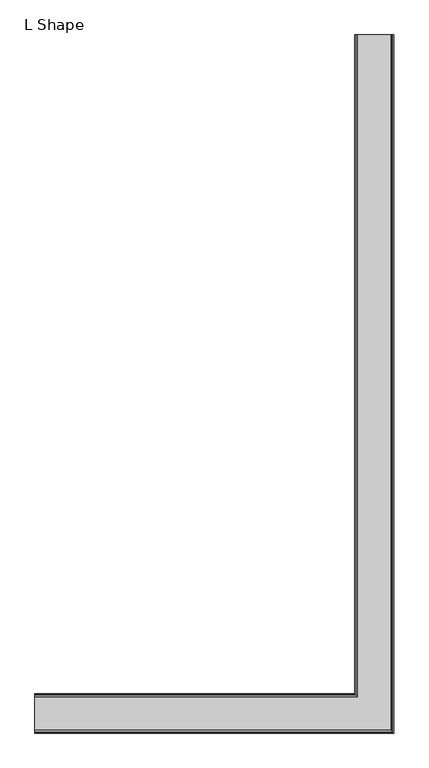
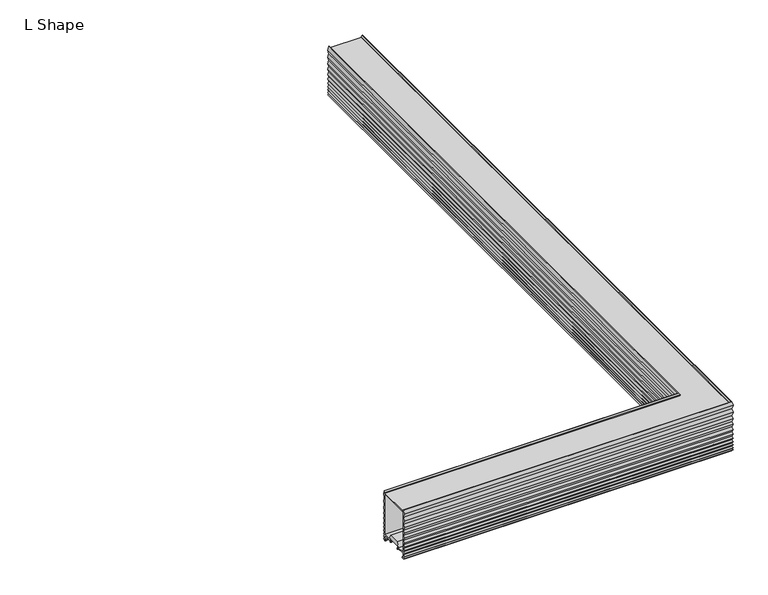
"""IFC4 building model written with IfcOpenShell, lengths in millimetres: light fixture geometry, Lighting-Pendant-Betacalco-Bellows-L_Shape : L Shape."""

from ifc_helpers import new_model, si_unit, frame, origin, place, context, project, spatial, polyline, circle_curve, ellipse_curve, outline, extrude, source, transform, mapped, element, save
from ifc_brep_helpers import plane_surface, cylinder_surface, advanced_brep


def l_shape_d3140779(model_context):
    return source(origin(), model_context, "Body", "SolidModel", [
        advanced_brep(
        [(273.578, 1219.2, 620.268), (273.578, 1219.2, 611.759), (276.1074155, 1219.2, 611.759), (274.1622, 1219.2, 609.6), (271.5112057, 1219.2, 609.6), (269.6378379, 1219.2, 611.6283861), (271.419, 1219.2, 613.664), (269.641, 1219.2, 616.204), (271.419, 1219.2, 618.744), (269.641, 1219.2, 621.792), (271.419, 1219.2, 624.84), (269.641, 1219.2, 628.396), (271.419, 1219.2, 631.952), (269.641, 1219.2, 635.762), (271.419, 1219.2, 639.572), (269.6696413, 1219.2, 644.0703509), (271.3917998, 1219.2, 648.6460566), (269.6644945, 1219.2, 653.7288728), (271.3965785, 1219.2, 658.8119386), (269.6606035, 1219.2, 664.402389), (271.4002163, 1219.2, 669.9929656), (269.6575947, 1219.2, 676.091104), (271.4035969, 1219.2, 682.1911894), (269.6533208, 1219.2, 689.3067168), (271.4068918, 1219.2, 696.4195673), (269.6525087, 1219.2, 703.786321), (271.4185068, 1219.2, 711.2), (272.2122568, 1219.2, 711.2), (274.37175, 1219.2, 708.8470342), (274.37175, 1219.2, 707.3961196), (273.578, 1219.2, 707.3961196), (273.578, 1219.2, 622.427), (289.3193854, 1219.2, 622.427), (294.1777745, 1219.2, 632.1473325), (315.4222255, 1219.2, 632.1473325), (320.2806146, 1219.2, 622.427), (336.022, 1219.2, 622.427), (336.022, 1219.2, 707.3961196), (335.22825, 1219.2, 707.3961196), (335.22825, 1219.2, 708.8470342), (337.3877432, 1219.2, 711.2), (338.1814932, 1219.2, 711.2), (339.9474913, 1219.2, 703.786321), (338.1931082, 1219.2, 696.4195673), (339.9466792, 1219.2, 689.3067168), (338.1964031, 1219.2, 682.1911894), (339.9424053, 1219.2, 676.091104), (338.1997837, 1219.2, 669.9929656), (339.9393965, 1219.2, 664.402389), (338.2034215, 1219.2, 658.8119386), (339.9355055, 1219.2, 653.7288728), (338.2082002, 1219.2, 648.6460566), (339.9303587, 1219.2, 644.0703509), (338.181, 1219.2, 639.572), (339.959, 1219.2, 635.762), (338.181, 1219.2, 631.952), (339.959, 1219.2, 628.396), (338.181, 1219.2, 624.84), (339.959, 1219.2, 621.792), (338.181, 1219.2, 618.744), (339.959, 1219.2, 616.204), (338.181, 1219.2, 613.664), (339.9621621, 1219.2, 611.6283861), (338.0887943, 1219.2, 609.6), (335.4378, 1219.2, 609.6), (333.4925845, 1219.2, 611.759), (336.022, 1219.2, 611.759), (336.022, 1219.2, 620.268), (318.3129289, 1219.2, 620.268), (317.5429679, 1219.2, 618.214822), (315.8552644, 1219.2, 618.8406239), (317.48601, 1219.2, 623.1891701), (316.8641563, 1219.2, 624.4333325), (292.7358437, 1219.2, 624.4333325), (292.11399, 1219.2, 623.1891701), (293.7447356, 1219.2, 618.8406239), (292.0570321, 1219.2, 618.214822), (291.2870711, 1219.2, 620.268), (-304.8, 31.222, 620.268), (-304.8, 13.5129289, 620.268), (-304.8, 12.7429679, 618.214822), (-304.8, 11.0552644, 618.8406239), (-304.8, 12.68601, 623.1891701), (-304.8, 12.0641563, 624.4333325), (-304.8, -12.0641563, 624.4333325), (-304.8, -12.68601, 623.1891701), (-304.8, -11.0552644, 618.8406239), (-304.8, -12.7429679, 618.214822), (-304.8, -13.5129289, 620.268), (-304.8, -31.222, 620.268), (-304.8, -31.222, 611.759), (-304.8, -28.6925845, 611.759), (-304.8, -30.6378, 609.6), (-304.8, -33.2887943, 609.6), (-304.8, -35.1621621, 611.6283861), (-304.8, -33.381, 613.664), (-304.8, -35.159, 616.204), (-304.8, -33.381, 618.744), (-304.8, -35.159, 621.792), (-304.8, -33.381, 624.84), (-304.8, -35.159, 628.396), (-304.8, -33.381, 631.952), (-304.8, -35.159, 635.762), (-304.8, -33.381, 639.572), (-304.8, -35.1303587, 644.0703509), (-304.8, -33.4082002, 648.6460566), (-304.8, -35.1355055, 653.7288728), (-304.8, -33.4034215, 658.8119386), (-304.8, -35.1393965, 664.402389), (-304.8, -33.3997837, 669.9929656), (-304.8, -35.1424053, 676.091104), (-304.8, -33.3964031, 682.1911894), (-304.8, -35.1466792, 689.3067168), (-304.8, -33.3931082, 696.4195673), (-304.8, -35.1474913, 703.786321), (-304.8, -33.3814932, 711.2), (-304.8, -32.5877432, 711.2), (-304.8, -30.42825, 708.8470342), (-304.8, -30.42825, 707.3961196), (-304.8, -31.222, 707.3961196), (-304.8, -31.222, 622.427), (-304.8, -15.4806146, 622.427), (-304.8, -10.6222255, 632.1473325), (-304.8, 10.6222255, 632.1473325), (-304.8, 15.4806146, 622.427), (-304.8, 31.222, 622.427), (-304.8, 31.222, 707.3961196), (-304.8, 30.42825, 707.3961196), (-304.8, 30.42825, 708.8470342), (-304.8, 32.5877432, 711.2), (-304.8, 33.3814932, 711.2), (-304.8, 35.1474913, 703.786321), (-304.8, 33.3931082, 696.4195673), (-304.8, 35.1466792, 689.3067168), (-304.8, 33.3964031, 682.1911894), (-304.8, 35.1424053, 676.091104), (-304.8, 33.3997837, 669.9929656), (-304.8, 35.1393965, 664.402389), (-304.8, 33.4034215, 658.8119386), (-304.8, 35.1355055, 653.7288728), (-304.8, 33.4082002, 648.6460566), (-304.8, 35.1303587, 644.0703509), (-304.8, 33.381, 639.572), (-304.8, 35.159, 635.762), (-304.8, 33.381, 631.952), (-304.8, 35.159, 628.396), (-304.8, 33.381, 624.84), (-304.8, 35.159, 621.792), (-304.8, 33.381, 618.744), (-304.8, 35.159, 616.204), (-304.8, 33.381, 613.664), (-304.8, 35.1621621, 611.6283861), (-304.8, 33.2887943, 609.6), (-304.8, 30.6378, 609.6), (-304.8, 28.6925845, 611.759), (-304.8, 31.222, 611.759), (292.0570321, 12.7429679, 618.214822), (291.2870711, 13.5129289, 620.268), (293.7447356, 11.0552644, 618.8406239), (292.11399, 12.68601, 623.1891701), (292.7358437, 12.0641563, 624.4333325), (317.48601, -12.68601, 623.1891701), (316.8641563, -12.0641563, 624.4333325), (315.8552644, -11.0552644, 618.8406239), (317.5429679, -12.7429679, 618.214822), (318.3129289, -13.5129289, 620.268), (336.022, -31.222, 611.759), (336.022, -31.222, 620.268), (335.4378, -30.6378, 609.6), (333.4925845, -28.6925845, 611.759), (339.9621621, -35.1621621, 611.6283861), (338.0887943, -33.2887943, 609.6), (338.181, -33.381, 613.664), (339.959, -35.159, 616.204), (338.181, -33.381, 618.744), (339.959, -35.159, 621.792), (338.181, -33.381, 624.84), (339.959, -35.159, 628.396), (338.181, -33.381, 631.952), (339.959, -35.159, 635.762), (338.181, -33.381, 639.572), (339.9303587, -35.1303587, 644.0703509), (338.2082002, -33.4082002, 648.6460566), (339.9355055, -35.1355055, 653.7288728), (338.2034215, -33.4034215, 658.8119386), (339.9393965, -35.1393965, 664.402389), (338.1997837, -33.3997837, 669.9929656), (339.9424053, -35.1424053, 676.091104), (338.1964031, -33.3964031, 682.1911894), (339.9466792, -35.1466792, 689.3067168), (338.1931082, -33.3931082, 696.4195673), (339.9474913, -35.1474913, 703.786321), (338.1814932, -33.3814932, 711.2), (335.22825, -30.42825, 708.8470342), (337.3877432, -32.5877432, 711.2), (335.22825, -30.42825, 707.3961196), (336.022, -31.222, 622.427), (336.022, -31.222, 707.3961196), (315.4222255, -10.6222255, 632.1473325), (320.2806146, -15.4806146, 622.427), (289.3193854, 15.4806146, 622.427), (294.1777745, 10.6222255, 632.1473325), (273.578, 31.222, 707.3961196), (273.578, 31.222, 622.427), (274.37175, 30.42825, 708.8470342), (274.37175, 30.42825, 707.3961196), (272.2122568, 32.5877432, 711.2), (269.6525087, 35.1474913, 703.786321), (271.4185068, 33.3814932, 711.2), (271.4068918, 33.3931082, 696.4195673), (269.6533208, 35.1466792, 689.3067168), (271.4035969, 33.3964031, 682.1911894), (269.6575947, 35.1424053, 676.091104), (271.4002163, 33.3997837, 669.9929656), (269.6606035, 35.1393965, 664.402389), (271.3965785, 33.4034215, 658.8119386), (269.6644945, 35.1355055, 653.7288728), (271.3917998, 33.4082002, 648.6460566), (269.6696413, 35.1303587, 644.0703509), (271.419, 33.381, 639.572), (269.641, 35.159, 635.762), (271.419, 33.381, 631.952), (269.641, 35.159, 628.396), (271.419, 33.381, 624.84), (269.641, 35.159, 621.792), (271.419, 33.381, 618.744), (269.641, 35.159, 616.204), (271.419, 33.381, 613.664), (269.6378379, 35.1621621, 611.6283861), (271.5112057, 33.2887943, 609.6), (276.1074155, 28.6925845, 611.759), (274.1622, 30.6378, 609.6), (273.578, 31.222, 620.268), (273.578, 31.222, 611.759)],
        [
            (0, 1),
            (1, 2),
            (2, 3, circle_curve(frame((274.1622, 1219.2, 611.5558), z_axis=(0.0, 1.0, 0.0), x_axis=(0.0, 0.0, -1.0)), 1.9558)),
            (3, 4),
            (4, 5),
            (5, 6),
            (6, 7),
            (7, 8),
            (8, 9),
            (9, 10),
            (10, 11),
            (11, 12),
            (12, 13),
            (13, 14),
            (14, 15),
            (15, 16),
            (16, 17),
            (17, 18),
            (18, 19),
            (19, 20),
            (20, 21),
            (21, 22),
            (22, 23),
            (23, 24),
            (24, 25),
            (25, 26),
            (26, 27),
            (27, 28),
            (28, 29),
            (29, 30),
            (30, 31),
            (31, 32),
            (32, 33),
            (33, 34),
            (34, 35),
            (35, 36),
            (36, 37),
            (37, 38),
            (38, 39),
            (39, 40),
            (40, 41),
            (41, 42),
            (42, 43),
            (43, 44),
            (44, 45),
            (45, 46),
            (46, 47),
            (47, 48),
            (48, 49),
            (49, 50),
            (50, 51),
            (51, 52),
            (52, 53),
            (53, 54),
            (54, 55),
            (55, 56),
            (56, 57),
            (57, 58),
            (58, 59),
            (59, 60),
            (60, 61),
            (61, 62),
            (62, 63),
            (63, 64),
            (64, 65, circle_curve(frame((335.4378, 1219.2, 611.5558), z_axis=(0.0, 1.0, 0.0), x_axis=(0.0, 0.0, -1.0)), 1.9558)),
            (65, 66),
            (66, 67),
            (67, 68),
            (68, 69),
            (69, 70, circle_curve(frame((316.7002723, 1219.2, 618.5308408), z_axis=(0.0, 1.0, 0.0), x_axis=(-0.34325550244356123, 0.0, -0.9392420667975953)), 0.9000021)),
            (70, 71),
            (71, 72),
            (72, 73),
            (73, 74),
            (74, 75),
            (75, 76, circle_curve(frame((292.8997277, 1219.2, 618.5308408), z_axis=(0.0, 1.0, 0.0), x_axis=(0.34325550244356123, 0.0, -0.9392420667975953)), 0.9000021)),
            (76, 77),
            (77, 0),
            (78, 79),
            (79, 80),
            (80, 81, circle_curve(frame((-304.8, 11.9002723, 618.5308408), z_axis=(-1.0, 0.0, 0.0), x_axis=(0.0, -0.34325550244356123, -0.9392420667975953)), 0.9000021)),
            (81, 82),
            (82, 83),
            (83, 84),
            (84, 85),
            (85, 86),
            (86, 87, circle_curve(frame((-304.8, -11.9002723, 618.5308408), z_axis=(-1.0, 0.0, 0.0), x_axis=(0.0, 0.34325550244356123, -0.9392420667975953)), 0.9000021)),
            (87, 88),
            (88, 89),
            (89, 90),
            (90, 91),
            (91, 92, circle_curve(frame((-304.8, -30.6378, 611.5558), z_axis=(-1.0, 0.0, 0.0), x_axis=(0.0, 0.0, -1.0)), 1.9558)),
            (92, 93),
            (93, 94),
            (94, 95),
            (95, 96),
            (96, 97),
            (97, 98),
            (98, 99),
            (99, 100),
            (100, 101),
            (101, 102),
            (102, 103),
            (103, 104),
            (104, 105),
            (105, 106),
            (106, 107),
            (107, 108),
            (108, 109),
            (109, 110),
            (110, 111),
            (111, 112),
            (112, 113),
            (113, 114),
            (114, 115),
            (115, 116),
            (116, 117),
            (117, 118),
            (118, 119),
            (119, 120),
            (120, 121),
            (121, 122),
            (122, 123),
            (123, 124),
            (124, 125),
            (125, 126),
            (126, 127),
            (127, 128),
            (128, 129),
            (129, 130),
            (130, 131),
            (131, 132),
            (132, 133),
            (133, 134),
            (134, 135),
            (135, 136),
            (136, 137),
            (137, 138),
            (138, 139),
            (139, 140),
            (140, 141),
            (141, 142),
            (142, 143),
            (143, 144),
            (144, 145),
            (145, 146),
            (146, 147),
            (147, 148),
            (148, 149),
            (149, 150),
            (150, 151),
            (151, 152),
            (152, 153),
            (153, 154, circle_curve(frame((-304.8, 30.6378, 611.5558), z_axis=(-1.0, 0.0, 0.0), x_axis=(0.0, 0.0, -1.0)), 1.9558)),
            (154, 155),
            (155, 78),
            (156, 80),
            (79, 157),
            (157, 156),
            (158, 81),
            (156, 158, ellipse_curve(frame((292.8997277, 11.9002723, 618.5308408), z_axis=(-0.7071067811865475, -0.7071067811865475, 0.0), x_axis=(0.7071067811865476, -0.7071067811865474, 0.0)), 1.2727952, 0.9000021)),
            (159, 82),
            (158, 159),
            (160, 83),
            (159, 160),
            (161, 85),
            (84, 162),
            (162, 161),
            (163, 86),
            (161, 163),
            (164, 87),
            (163, 164, ellipse_curve(frame((316.7002723, -11.9002723, 618.5308408), z_axis=(-0.7071067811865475, -0.7071067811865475, 0.0), x_axis=(0.7071067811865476, -0.7071067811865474, 0.0)), 1.2727952, 0.9000021)),
            (165, 88),
            (164, 165),
            (166, 90),
            (89, 167),
            (167, 166),
            (168, 92),
            (91, 169),
            (169, 168, ellipse_curve(frame((335.4378, -30.6378, 611.5558), z_axis=(-0.7071067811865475, -0.7071067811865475, 0.0), x_axis=(0.7071067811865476, -0.7071067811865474, 0.0)), 2.7659189, 1.9558)),
            (170, 94),
            (93, 171),
            (171, 170),
            (172, 95),
            (170, 172),
            (173, 96),
            (172, 173),
            (174, 97),
            (173, 174),
            (175, 98),
            (174, 175),
            (176, 99),
            (175, 176),
            (177, 100),
            (176, 177),
            (178, 101),
            (177, 178),
            (179, 102),
            (178, 179),
            (180, 103),
            (179, 180),
            (181, 104),
            (180, 181),
            (182, 105),
            (181, 182),
            (183, 106),
            (182, 183),
            (184, 107),
            (183, 184),
            (185, 108),
            (184, 185),
            (186, 109),
            (185, 186),
            (187, 110),
            (186, 187),
            (188, 111),
            (187, 188),
            (189, 112),
            (188, 189),
            (190, 113),
            (189, 190),
            (191, 114),
            (190, 191),
            (192, 115),
            (191, 192),
            (193, 117),
            (116, 194),
            (194, 193),
            (195, 118),
            (193, 195),
            (196, 120),
            (119, 197),
            (197, 196),
            (198, 122),
            (121, 199),
            (199, 198),
            (200, 124),
            (123, 201),
            (201, 200),
            (202, 126),
            (125, 203),
            (203, 202),
            (204, 128),
            (127, 205),
            (205, 204),
            (206, 129),
            (204, 206),
            (207, 131),
            (130, 208),
            (208, 207),
            (209, 132),
            (207, 209),
            (210, 133),
            (209, 210),
            (211, 134),
            (210, 211),
            (212, 135),
            (211, 212),
            (213, 136),
            (212, 213),
            (214, 137),
            (213, 214),
            (215, 138),
            (214, 215),
            (216, 139),
            (215, 216),
            (217, 140),
            (216, 217),
            (218, 141),
            (217, 218),
            (219, 142),
            (218, 219),
            (220, 143),
            (219, 220),
            (221, 144),
            (220, 221),
            (222, 145),
            (221, 222),
            (223, 146),
            (222, 223),
            (224, 147),
            (223, 224),
            (225, 148),
            (224, 225),
            (226, 149),
            (225, 226),
            (227, 150),
            (226, 227),
            (228, 151),
            (227, 228),
            (229, 152),
            (228, 229),
            (230, 154),
            (153, 231),
            (231, 230, ellipse_curve(frame((274.1622, 30.6378, 611.5558), z_axis=(-0.7071067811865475, -0.7071067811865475, 0.0), x_axis=(0.7071067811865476, -0.7071067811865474, 0.0)), 2.7659189, 1.9558)),
            (232, 78),
            (155, 233),
            (233, 232),
            (77, 157),
            (232, 0),
            (76, 156),
            (75, 158),
            (74, 159),
            (73, 160),
            (72, 162),
            (71, 161),
            (70, 163),
            (69, 164),
            (68, 165),
            (67, 167),
            (66, 166),
            (65, 169),
            (64, 168),
            (63, 171),
            (62, 170),
            (61, 172),
            (60, 173),
            (59, 174),
            (58, 175),
            (57, 176),
            (56, 177),
            (55, 178),
            (54, 179),
            (53, 180),
            (52, 181),
            (51, 182),
            (50, 183),
            (49, 184),
            (48, 185),
            (47, 186),
            (46, 187),
            (45, 188),
            (44, 189),
            (43, 190),
            (42, 191),
            (41, 192),
            (40, 194),
            (39, 193),
            (38, 195),
            (37, 197),
            (36, 196),
            (35, 199),
            (34, 198),
            (33, 201),
            (32, 200),
            (31, 203),
            (30, 202),
            (29, 205),
            (28, 204),
            (27, 206),
            (26, 208),
            (25, 207),
            (24, 209),
            (23, 210),
            (22, 211),
            (21, 212),
            (20, 213),
            (19, 214),
            (18, 215),
            (17, 216),
            (16, 217),
            (15, 218),
            (14, 219),
            (13, 220),
            (12, 221),
            (11, 222),
            (10, 223),
            (9, 224),
            (8, 225),
            (7, 226),
            (6, 227),
            (5, 228),
            (4, 229),
            (3, 231),
            (2, 230),
            (1, 233),
        ],
        [
            plane_surface(frame((304.8, 1219.2, 0.0), z_axis=(0.0, 1.0, 0.0), x_axis=(0.0, 0.0, 1.0))),
            plane_surface(frame((-304.8, 0.0, 0.0), z_axis=(-1.0, 0.0, 0.0), x_axis=(0.0, 0.0, 1.0))),
            plane_surface(frame((291.2870711, 13.5129289, 620.268), z_axis=(0.0, 0.9363262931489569, -0.3511311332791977), x_axis=(-1.0, 0.0, 0.0))),
            cylinder_surface(frame((304.8, 11.9002723, 618.5308408), z_axis=(1.0, 0.0, 0.0), x_axis=(0.0, -0.34325550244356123, -0.9392420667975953)), 0.9000021),
            plane_surface(frame((293.7447356, 11.0552644, 618.8406239), z_axis=(0.0, -0.9363262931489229, 0.35113113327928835), x_axis=(-1.0, 0.0, 0.0))),
            plane_surface(frame((292.11399, 12.68601, 623.1891701), z_axis=(0.0, -0.89449260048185, -0.44708275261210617), x_axis=(-1.0, 0.0, 0.0))),
            plane_surface(frame((316.8641563, -12.0641563, 624.4333325), z_axis=(0.0, 0.89449260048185, -0.44708275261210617), x_axis=(-1.0, 0.0, 0.0))),
            plane_surface(frame((317.48601, -12.68601, 623.1891701), z_axis=(0.0, 0.9363262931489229, 0.35113113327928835), x_axis=(-1.0, 0.0, 0.0))),
            cylinder_surface(frame((304.8, -11.9002723, 618.5308408), z_axis=(1.0, 0.0, 0.0), x_axis=(0.0, 0.34325550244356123, -0.9392420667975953)), 0.9000021),
            plane_surface(frame((317.5429679, -12.7429679, 618.214822), z_axis=(0.0, -0.9363262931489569, -0.3511311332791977), x_axis=(-1.0, 0.0, 0.0))),
            plane_surface(frame((336.022, -31.222, 620.268), z_axis=(0.0, 1.0, 0.0), x_axis=(-1.0, 0.0, 0.0))),
            cylinder_surface(frame((304.8, -30.6378, 611.5558), z_axis=(1.0, 0.0, 0.0), x_axis=(0.0, 0.0, -1.0)), 1.9558),
            plane_surface(frame((338.0887943, -33.2887943, 609.6), z_axis=(0.0, -0.7346208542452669, -0.6784778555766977), x_axis=(-1.0, 0.0, 0.0))),
            plane_surface(frame((339.9621621, -35.1621621, 611.6283861), z_axis=(0.0, -0.75257669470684, 0.6585046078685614), x_axis=(-1.0, 0.0, 0.0))),
            plane_surface(frame((338.181, -33.381, 613.664), z_axis=(0.0, -0.8192319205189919, -0.5734623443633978), x_axis=(-1.0, 0.0, 0.0))),
            plane_surface(frame((339.959, -35.159, 616.204), z_axis=(0.0, -0.8192319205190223, 0.5734623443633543), x_axis=(-1.0, 0.0, 0.0))),
            plane_surface(frame((338.181, -33.381, 618.744), z_axis=(0.0, -0.8637789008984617, -0.503871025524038), x_axis=(-1.0, 0.0, 0.0))),
            plane_surface(frame((339.959, -35.159, 621.792), z_axis=(0.0, -0.8637789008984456, 0.5038710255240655), x_axis=(-1.0, 0.0, 0.0))),
            plane_surface(frame((338.181, -33.381, 624.84), z_axis=(0.0, -0.8944271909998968, -0.4472135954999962), x_axis=(-1.0, 0.0, 0.0))),
            plane_surface(frame((339.959, -35.159, 628.396), z_axis=(0.0, -0.8944271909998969, 0.44721359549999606), x_axis=(-1.0, 0.0, 0.0))),
            plane_surface(frame((338.181, -33.381, 631.952), z_axis=(0.0, -0.9061831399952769, -0.4228854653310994), x_axis=(-1.0, 0.0, 0.0))),
            plane_surface(frame((339.959, -35.159, 635.762), z_axis=(0.0, -0.9061831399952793, 0.4228854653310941), x_axis=(-1.0, 0.0, 0.0))),
            plane_surface(frame((338.181, -33.381, 639.572), z_axis=(0.0, -0.9320046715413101, -0.362446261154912), x_axis=(-1.0, 0.0, 0.0))),
            plane_surface(frame((339.9303587, -35.1303587, 644.0703509), z_axis=(0.0, -0.9359069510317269, 0.35224732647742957), x_axis=(-1.0, 0.0, 0.0))),
            plane_surface(frame((338.2082002, -33.4082002, 648.6460566), z_axis=(0.0, -0.9468211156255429, -0.3217604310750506), x_axis=(-1.0, 0.0, 0.0))),
            plane_surface(frame((339.9355055, -35.1355055, 653.7288728), z_axis=(0.0, -0.9465545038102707, 0.3225439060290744), x_axis=(-1.0, 0.0, 0.0))),
            plane_surface(frame((338.2034215, -33.4034215, 658.8119386), z_axis=(0.0, -0.9550153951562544, -0.2965562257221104), x_axis=(-1.0, 0.0, 0.0))),
            plane_surface(frame((339.9393965, -35.1393965, 664.402389), z_axis=(0.0, -0.9548411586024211, 0.29711674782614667), x_axis=(-1.0, 0.0, 0.0))),
            plane_surface(frame((338.1997837, -33.3997837, 669.9929656), z_axis=(0.0, -0.9615116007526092, -0.2747643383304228), x_axis=(-1.0, 0.0, 0.0))),
            plane_surface(frame((339.9424053, -35.1424053, 676.091104), z_axis=(0.0, -0.9613939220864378, 0.27517581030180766), x_axis=(-1.0, 0.0, 0.0))),
            plane_surface(frame((338.1964031, -33.3964031, 682.1911894), z_axis=(0.0, -0.971054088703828, -0.23885970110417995), x_axis=(-1.0, 0.0, 0.0))),
            plane_surface(frame((339.9466792, -35.1466792, 689.3067168), z_axis=(0.0, -0.9709287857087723, 0.23936852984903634), x_axis=(-1.0, 0.0, 0.0))),
            plane_surface(frame((338.1931082, -33.3931082, 696.4195673), z_axis=(0.0, -0.9727944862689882, -0.23166978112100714), x_axis=(-1.0, 0.0, 0.0))),
            plane_surface(frame((339.9474913, -35.1474913, 703.786321), z_axis=(0.0, -0.9727814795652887, 0.23172439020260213), x_axis=(-1.0, 0.0, 0.0))),
            plane_surface(frame((337.3877432, -32.5877432, 711.2), z_axis=(0.0, 0.7367472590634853, 0.6761682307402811), x_axis=(-1.0, 0.0, 0.0))),
            plane_surface(frame((335.22825, -30.42825, 708.8470342), z_axis=(0.0, 1.0, 0.0), x_axis=(-1.0, 0.0, 0.0))),
            plane_surface(frame((336.022, -31.222, 707.3961196), z_axis=(0.0, 1.0, 0.0), x_axis=(-1.0, 0.0, 0.0))),
            plane_surface(frame((320.2806146, -15.4806146, 622.427), z_axis=(0.0, -0.8944926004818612, 0.4470827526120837), x_axis=(-1.0, 0.0, 0.0))),
            plane_surface(frame((294.1777745, 10.6222255, 632.1473325), z_axis=(0.0, 0.8944926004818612, 0.4470827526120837), x_axis=(-1.0, 0.0, 0.0))),
            plane_surface(frame((273.578, 31.222, 622.427), z_axis=(0.0, -1.0, 0.0), x_axis=(-1.0, 0.0, 0.0))),
            plane_surface(frame((274.37175, 30.42825, 707.3961196), z_axis=(0.0, -1.0, 0.0), x_axis=(-1.0, 0.0, 0.0))),
            plane_surface(frame((274.37175, 30.42825, 708.8470342), z_axis=(0.0, -0.7367472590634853, 0.6761682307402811), x_axis=(-1.0, 0.0, 0.0))),
            plane_surface(frame((271.4185068, 33.3814932, 711.2), z_axis=(0.0, 0.9727814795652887, 0.23172439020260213), x_axis=(-1.0, 0.0, 0.0))),
            plane_surface(frame((269.6525087, 35.1474913, 703.786321), z_axis=(0.0, 0.9727944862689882, -0.23166978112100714), x_axis=(-1.0, 0.0, 0.0))),
            plane_surface(frame((271.4068918, 33.3931082, 696.4195673), z_axis=(0.0, 0.9709287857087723, 0.23936852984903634), x_axis=(-1.0, 0.0, 0.0))),
            plane_surface(frame((269.6533208, 35.1466792, 689.3067168), z_axis=(0.0, 0.971054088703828, -0.23885970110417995), x_axis=(-1.0, 0.0, 0.0))),
            plane_surface(frame((271.4035969, 33.3964031, 682.1911894), z_axis=(0.0, 0.9613939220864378, 0.27517581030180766), x_axis=(-1.0, 0.0, 0.0))),
            plane_surface(frame((269.6575947, 35.1424053, 676.091104), z_axis=(0.0, 0.9615116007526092, -0.2747643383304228), x_axis=(-1.0, 0.0, 0.0))),
            plane_surface(frame((271.4002163, 33.3997837, 669.9929656), z_axis=(0.0, 0.9548411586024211, 0.29711674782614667), x_axis=(-1.0, 0.0, 0.0))),
            plane_surface(frame((269.6606035, 35.1393965, 664.402389), z_axis=(0.0, 0.9550153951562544, -0.2965562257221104), x_axis=(-1.0, 0.0, 0.0))),
            plane_surface(frame((271.3965785, 33.4034215, 658.8119386), z_axis=(0.0, 0.9465545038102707, 0.3225439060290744), x_axis=(-1.0, 0.0, 0.0))),
            plane_surface(frame((269.6644945, 35.1355055, 653.7288728), z_axis=(0.0, 0.9468211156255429, -0.3217604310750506), x_axis=(-1.0, 0.0, 0.0))),
            plane_surface(frame((271.3917998, 33.4082002, 648.6460566), z_axis=(0.0, 0.9359069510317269, 0.35224732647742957), x_axis=(-1.0, 0.0, 0.0))),
            plane_surface(frame((269.6696413, 35.1303587, 644.0703509), z_axis=(0.0, 0.9320046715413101, -0.362446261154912), x_axis=(-1.0, 0.0, 0.0))),
            plane_surface(frame((271.419, 33.381, 639.572), z_axis=(0.0, 0.9061831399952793, 0.4228854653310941), x_axis=(-1.0, 0.0, 0.0))),
            plane_surface(frame((269.641, 35.159, 635.762), z_axis=(0.0, 0.9061831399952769, -0.4228854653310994), x_axis=(-1.0, 0.0, 0.0))),
            plane_surface(frame((271.419, 33.381, 631.952), z_axis=(0.0, 0.8944271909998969, 0.44721359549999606), x_axis=(-1.0, 0.0, 0.0))),
            plane_surface(frame((269.641, 35.159, 628.396), z_axis=(0.0, 0.8944271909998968, -0.4472135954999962), x_axis=(-1.0, 0.0, 0.0))),
            plane_surface(frame((271.419, 33.381, 624.84), z_axis=(0.0, 0.8637789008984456, 0.5038710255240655), x_axis=(-1.0, 0.0, 0.0))),
            plane_surface(frame((269.641, 35.159, 621.792), z_axis=(0.0, 0.8637789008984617, -0.503871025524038), x_axis=(-1.0, 0.0, 0.0))),
            plane_surface(frame((271.419, 33.381, 618.744), z_axis=(0.0, 0.8192319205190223, 0.5734623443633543), x_axis=(-1.0, 0.0, 0.0))),
            plane_surface(frame((269.641, 35.159, 616.204), z_axis=(0.0, 0.8192319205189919, -0.5734623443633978), x_axis=(-1.0, 0.0, 0.0))),
            plane_surface(frame((271.419, 33.381, 613.664), z_axis=(0.0, 0.75257669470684, 0.6585046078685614), x_axis=(-1.0, 0.0, 0.0))),
            plane_surface(frame((269.6378379, 35.1621621, 611.6283861), z_axis=(0.0, 0.7346208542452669, -0.6784778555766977), x_axis=(-1.0, 0.0, 0.0))),
            cylinder_surface(frame((304.8, 30.6378, 611.5558), z_axis=(1.0, 0.0, 0.0), x_axis=(0.0, 0.0, -1.0)), 1.9558),
            plane_surface(frame((273.578, 31.222, 611.759), z_axis=(0.0, -1.0, 0.0), x_axis=(-1.0, 0.0, 0.0))),
            plane_surface(frame((273.578, 1219.2, 620.268), z_axis=(0.0, 0.0, -1.0), x_axis=(0.0, -1.0, 0.0))),
            plane_surface(frame((291.2870711, 1219.2, 620.268), z_axis=(-0.9363262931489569, 0.0, -0.3511311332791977), x_axis=(0.0, -1.0, 0.0))),
            cylinder_surface(frame((292.8997277, 1219.2, 618.5308408), z_axis=(0.0, 1.0, 0.0), x_axis=(0.34325550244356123, 0.0, -0.9392420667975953)), 0.9000021),
            plane_surface(frame((293.7447356, 1219.2, 618.8406239), z_axis=(0.9363262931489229, 0.0, 0.35113113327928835), x_axis=(0.0, -1.0, 0.0))),
            plane_surface(frame((292.11399, 1219.2, 623.1891701), z_axis=(0.89449260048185, 0.0, -0.44708275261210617), x_axis=(0.0, -1.0, 0.0))),
            plane_surface(frame((292.7358437, 1219.2, 624.4333325), z_axis=(0.0, 0.0, -1.0), x_axis=(0.0, -1.0, 0.0))),
            plane_surface(frame((316.8641563, 1219.2, 624.4333325), z_axis=(-0.89449260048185, 0.0, -0.44708275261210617), x_axis=(0.0, -1.0, 0.0))),
            plane_surface(frame((317.48601, 1219.2, 623.1891701), z_axis=(-0.9363262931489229, 0.0, 0.35113113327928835), x_axis=(0.0, -1.0, 0.0))),
            cylinder_surface(frame((316.7002723, 1219.2, 618.5308408), z_axis=(0.0, 1.0, 0.0), x_axis=(-0.34325550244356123, 0.0, -0.9392420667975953)), 0.9000021),
            plane_surface(frame((317.5429679, 1219.2, 618.214822), z_axis=(0.9363262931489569, 0.0, -0.3511311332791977), x_axis=(0.0, -1.0, 0.0))),
            plane_surface(frame((318.3129289, 1219.2, 620.268), z_axis=(0.0, 0.0, -1.0), x_axis=(0.0, -1.0, 0.0))),
            plane_surface(frame((336.022, 1219.2, 620.268), z_axis=(-1.0, 0.0, 0.0), x_axis=(0.0, -1.0, 0.0))),
            plane_surface(frame((336.022, 1219.2, 611.759), z_axis=(0.0, 0.0, 1.0), x_axis=(0.0, -1.0, 0.0))),
            cylinder_surface(frame((335.4378, 1219.2, 611.5558), z_axis=(0.0, 1.0, 0.0), x_axis=(0.0, 0.0, -1.0)), 1.9558),
            plane_surface(frame((335.4378, 1219.2, 609.6), z_axis=(0.0, 0.0, -1.0), x_axis=(0.0, -1.0, 0.0))),
            plane_surface(frame((338.0887943, 1219.2, 609.6), z_axis=(0.7346208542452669, 0.0, -0.6784778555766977), x_axis=(0.0, -1.0, 0.0))),
            plane_surface(frame((339.9621621, 1219.2, 611.6283861), z_axis=(0.75257669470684, 0.0, 0.6585046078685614), x_axis=(0.0, -1.0, 0.0))),
            plane_surface(frame((338.181, 1219.2, 613.664), z_axis=(0.8192319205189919, 0.0, -0.5734623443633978), x_axis=(0.0, -1.0, 0.0))),
            plane_surface(frame((339.959, 1219.2, 616.204), z_axis=(0.8192319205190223, 0.0, 0.5734623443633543), x_axis=(0.0, -1.0, 0.0))),
            plane_surface(frame((338.181, 1219.2, 618.744), z_axis=(0.8637789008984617, 0.0, -0.503871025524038), x_axis=(0.0, -1.0, 0.0))),
            plane_surface(frame((339.959, 1219.2, 621.792), z_axis=(0.8637789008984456, 0.0, 0.5038710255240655), x_axis=(0.0, -1.0, 0.0))),
            plane_surface(frame((338.181, 1219.2, 624.84), z_axis=(0.8944271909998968, 0.0, -0.4472135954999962), x_axis=(0.0, -1.0, 0.0))),
            plane_surface(frame((339.959, 1219.2, 628.396), z_axis=(0.8944271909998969, 0.0, 0.44721359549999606), x_axis=(0.0, -1.0, 0.0))),
            plane_surface(frame((338.181, 1219.2, 631.952), z_axis=(0.9061831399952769, 0.0, -0.4228854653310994), x_axis=(0.0, -1.0, 0.0))),
            plane_surface(frame((339.959, 1219.2, 635.762), z_axis=(0.9061831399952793, 0.0, 0.4228854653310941), x_axis=(0.0, -1.0, 0.0))),
            plane_surface(frame((338.181, 1219.2, 639.572), z_axis=(0.9320046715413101, 0.0, -0.362446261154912), x_axis=(0.0, -1.0, 0.0))),
            plane_surface(frame((339.9303587, 1219.2, 644.0703509), z_axis=(0.9359069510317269, 0.0, 0.35224732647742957), x_axis=(0.0, -1.0, 0.0))),
            plane_surface(frame((338.2082002, 1219.2, 648.6460566), z_axis=(0.9468211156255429, 0.0, -0.3217604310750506), x_axis=(0.0, -1.0, 0.0))),
            plane_surface(frame((339.9355055, 1219.2, 653.7288728), z_axis=(0.9465545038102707, 0.0, 0.3225439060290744), x_axis=(0.0, -1.0, 0.0))),
            plane_surface(frame((338.2034215, 1219.2, 658.8119386), z_axis=(0.9550153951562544, 0.0, -0.2965562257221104), x_axis=(0.0, -1.0, 0.0))),
            plane_surface(frame((339.9393965, 1219.2, 664.402389), z_axis=(0.9548411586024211, 0.0, 0.29711674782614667), x_axis=(0.0, -1.0, 0.0))),
            plane_surface(frame((338.1997837, 1219.2, 669.9929656), z_axis=(0.9615116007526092, 0.0, -0.2747643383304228), x_axis=(0.0, -1.0, 0.0))),
            plane_surface(frame((339.9424053, 1219.2, 676.091104), z_axis=(0.9613939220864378, 0.0, 0.27517581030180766), x_axis=(0.0, -1.0, 0.0))),
            plane_surface(frame((338.1964031, 1219.2, 682.1911894), z_axis=(0.971054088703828, 0.0, -0.23885970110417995), x_axis=(0.0, -1.0, 0.0))),
            plane_surface(frame((339.9466792, 1219.2, 689.3067168), z_axis=(0.9709287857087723, 0.0, 0.23936852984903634), x_axis=(0.0, -1.0, 0.0))),
            plane_surface(frame((338.1931082, 1219.2, 696.4195673), z_axis=(0.9727944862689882, 0.0, -0.23166978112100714), x_axis=(0.0, -1.0, 0.0))),
            plane_surface(frame((339.9474913, 1219.2, 703.786321), z_axis=(0.9727814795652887, 0.0, 0.23172439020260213), x_axis=(0.0, -1.0, 0.0))),
            plane_surface(frame((338.1814932, 1219.2, 711.2), z_axis=(0.0, 0.0, 1.0), x_axis=(0.0, -1.0, 0.0))),
            plane_surface(frame((337.3877432, 1219.2, 711.2), z_axis=(-0.7367472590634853, 0.0, 0.6761682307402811), x_axis=(0.0, -1.0, 0.0))),
            plane_surface(frame((335.22825, 1219.2, 708.8470342), z_axis=(-1.0, 0.0, 0.0), x_axis=(0.0, -1.0, 0.0))),
            plane_surface(frame((335.22825, 1219.2, 707.3961196), z_axis=(0.0, 0.0, -1.0), x_axis=(0.0, -1.0, 0.0))),
            plane_surface(frame((336.022, 1219.2, 707.3961196), z_axis=(-1.0, 0.0, 0.0), x_axis=(0.0, -1.0, 0.0))),
            plane_surface(frame((336.022, 1219.2, 622.427), z_axis=(0.0, 0.0, 1.0), x_axis=(0.0, -1.0, 0.0))),
            plane_surface(frame((320.2806146, 1219.2, 622.427), z_axis=(0.8944926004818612, 0.0, 0.4470827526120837), x_axis=(0.0, -1.0, 0.0))),
            plane_surface(frame((315.4222255, 1219.2, 632.1473325), z_axis=(0.0, 0.0, 1.0), x_axis=(0.0, -1.0, 0.0))),
            plane_surface(frame((294.1777745, 1219.2, 632.1473325), z_axis=(-0.8944926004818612, 0.0, 0.4470827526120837), x_axis=(0.0, -1.0, 0.0))),
            plane_surface(frame((289.3193854, 1219.2, 622.427), z_axis=(0.0, 0.0, 1.0), x_axis=(0.0, -1.0, 0.0))),
            plane_surface(frame((273.578, 1219.2, 622.427), z_axis=(1.0, 0.0, 0.0), x_axis=(0.0, -1.0, 0.0))),
            plane_surface(frame((273.578, 1219.2, 707.3961196), z_axis=(0.0, 0.0, -1.0), x_axis=(0.0, -1.0, 0.0))),
            plane_surface(frame((274.37175, 1219.2, 707.3961196), z_axis=(1.0, 0.0, 0.0), x_axis=(0.0, -1.0, 0.0))),
            plane_surface(frame((274.37175, 1219.2, 708.8470342), z_axis=(0.7367472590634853, 0.0, 0.6761682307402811), x_axis=(0.0, -1.0, 0.0))),
            plane_surface(frame((272.2122568, 1219.2, 711.2), z_axis=(0.0, 0.0, 1.0), x_axis=(0.0, -1.0, 0.0))),
            plane_surface(frame((271.4185068, 1219.2, 711.2), z_axis=(-0.9727814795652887, 0.0, 0.23172439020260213), x_axis=(0.0, -1.0, 0.0))),
            plane_surface(frame((269.6525087, 1219.2, 703.786321), z_axis=(-0.9727944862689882, 0.0, -0.23166978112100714), x_axis=(0.0, -1.0, 0.0))),
            plane_surface(frame((271.4068918, 1219.2, 696.4195673), z_axis=(-0.9709287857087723, 0.0, 0.23936852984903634), x_axis=(0.0, -1.0, 0.0))),
            plane_surface(frame((269.6533208, 1219.2, 689.3067168), z_axis=(-0.971054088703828, 0.0, -0.23885970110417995), x_axis=(0.0, -1.0, 0.0))),
            plane_surface(frame((271.4035969, 1219.2, 682.1911894), z_axis=(-0.9613939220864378, 0.0, 0.27517581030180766), x_axis=(0.0, -1.0, 0.0))),
            plane_surface(frame((269.6575947, 1219.2, 676.091104), z_axis=(-0.9615116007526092, 0.0, -0.2747643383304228), x_axis=(0.0, -1.0, 0.0))),
            plane_surface(frame((271.4002163, 1219.2, 669.9929656), z_axis=(-0.9548411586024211, 0.0, 0.29711674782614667), x_axis=(0.0, -1.0, 0.0))),
            plane_surface(frame((269.6606035, 1219.2, 664.402389), z_axis=(-0.9550153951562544, 0.0, -0.2965562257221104), x_axis=(0.0, -1.0, 0.0))),
            plane_surface(frame((271.3965785, 1219.2, 658.8119386), z_axis=(-0.9465545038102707, 0.0, 0.3225439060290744), x_axis=(0.0, -1.0, 0.0))),
            plane_surface(frame((269.6644945, 1219.2, 653.7288728), z_axis=(-0.9468211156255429, 0.0, -0.3217604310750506), x_axis=(0.0, -1.0, 0.0))),
            plane_surface(frame((271.3917998, 1219.2, 648.6460566), z_axis=(-0.9359069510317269, 0.0, 0.35224732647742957), x_axis=(0.0, -1.0, 0.0))),
            plane_surface(frame((269.6696413, 1219.2, 644.0703509), z_axis=(-0.9320046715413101, 0.0, -0.362446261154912), x_axis=(0.0, -1.0, 0.0))),
            plane_surface(frame((271.419, 1219.2, 639.572), z_axis=(-0.9061831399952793, 0.0, 0.4228854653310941), x_axis=(0.0, -1.0, 0.0))),
            plane_surface(frame((269.641, 1219.2, 635.762), z_axis=(-0.9061831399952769, 0.0, -0.4228854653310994), x_axis=(0.0, -1.0, 0.0))),
            plane_surface(frame((271.419, 1219.2, 631.952), z_axis=(-0.8944271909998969, 0.0, 0.44721359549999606), x_axis=(0.0, -1.0, 0.0))),
            plane_surface(frame((269.641, 1219.2, 628.396), z_axis=(-0.8944271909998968, 0.0, -0.4472135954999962), x_axis=(0.0, -1.0, 0.0))),
            plane_surface(frame((271.419, 1219.2, 624.84), z_axis=(-0.8637789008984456, 0.0, 0.5038710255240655), x_axis=(0.0, -1.0, 0.0))),
            plane_surface(frame((269.641, 1219.2, 621.792), z_axis=(-0.8637789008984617, 0.0, -0.503871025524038), x_axis=(0.0, -1.0, 0.0))),
            plane_surface(frame((271.419, 1219.2, 618.744), z_axis=(-0.8192319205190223, 0.0, 0.5734623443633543), x_axis=(0.0, -1.0, 0.0))),
            plane_surface(frame((269.641, 1219.2, 616.204), z_axis=(-0.8192319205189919, 0.0, -0.5734623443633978), x_axis=(0.0, -1.0, 0.0))),
            plane_surface(frame((271.419, 1219.2, 613.664), z_axis=(-0.75257669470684, 0.0, 0.6585046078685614), x_axis=(0.0, -1.0, 0.0))),
            plane_surface(frame((269.6378379, 1219.2, 611.6283861), z_axis=(-0.7346208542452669, 0.0, -0.6784778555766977), x_axis=(0.0, -1.0, 0.0))),
            plane_surface(frame((271.5112057, 1219.2, 609.6), z_axis=(0.0, 0.0, -1.0), x_axis=(0.0, -1.0, 0.0))),
            cylinder_surface(frame((274.1622, 1219.2, 611.5558), z_axis=(0.0, 1.0, 0.0), x_axis=(0.0, 0.0, -1.0)), 1.9558),
            plane_surface(frame((276.1074155, 1219.2, 611.759), z_axis=(0.0, 0.0, 1.0), x_axis=(0.0, -1.0, 0.0))),
            plane_surface(frame((273.578, 1219.2, 611.759), z_axis=(1.0, 0.0, 0.0), x_axis=(0.0, -1.0, 0.0))),
        ],
        [
            (0, [[1, 2, 3, 4, 5, 6, 7, 8, 9, 10, 11, 12, 13, 14, 15, 16, 17, 18, 19, 20, 21, 22, 23, 24, 25, 26, 27, 28, 29, 30, 31, 32, 33, 34, 35, 36, 37, 38, 39, 40, 41, 42, 43, 44, 45, 46, 47, 48, 49, 50, 51, 52, 53, 54, 55, 56, 57, 58, 59, 60, 61, 62, 63, 64, 65, 66, 67, 68, 69, 70, 71, 72, 73, 74, 75, 76, 77, 78]]),
            (1, [[79, 80, 81, 82, 83, 84, 85, 86, 87, 88, 89, 90, 91, 92, 93, 94, 95, 96, 97, 98, 99, 100, 101, 102, 103, 104, 105, 106, 107, 108, 109, 110, 111, 112, 113, 114, 115, 116, 117, 118, 119, 120, 121, 122, 123, 124, 125, 126, 127, 128, 129, 130, 131, 132, 133, 134, 135, 136, 137, 138, 139, 140, 141, 142, 143, 144, 145, 146, 147, 148, 149, 150, 151, 152, 153, 154, 155, 156]]),
            (2, [[157, -80, 158, 159]]),
            (3, [[160, -81, -157, 161]]),
            (4, [[162, -82, -160, 163]]),
            (5, [[164, -83, -162, 165]]),
            (6, [[166, -85, 167, 168]]),
            (7, [[169, -86, -166, 170]]),
            (8, [[171, -87, -169, 172]]),
            (9, [[173, -88, -171, 174]]),
            (10, [[175, -90, 176, 177]]),
            (11, [[178, -92, 179, 180]]),
            (12, [[181, -94, 182, 183]]),
            (13, [[184, -95, -181, 185]]),
            (14, [[186, -96, -184, 187]]),
            (15, [[188, -97, -186, 189]]),
            (16, [[190, -98, -188, 191]]),
            (17, [[192, -99, -190, 193]]),
            (18, [[194, -100, -192, 195]]),
            (19, [[196, -101, -194, 197]]),
            (20, [[198, -102, -196, 199]]),
            (21, [[200, -103, -198, 201]]),
            (22, [[202, -104, -200, 203]]),
            (23, [[204, -105, -202, 205]]),
            (24, [[206, -106, -204, 207]]),
            (25, [[208, -107, -206, 209]]),
            (26, [[210, -108, -208, 211]]),
            (27, [[212, -109, -210, 213]]),
            (28, [[214, -110, -212, 215]]),
            (29, [[216, -111, -214, 217]]),
            (30, [[218, -112, -216, 219]]),
            (31, [[220, -113, -218, 221]]),
            (32, [[222, -114, -220, 223]]),
            (33, [[224, -115, -222, 225]]),
            (34, [[226, -117, 227, 228]]),
            (35, [[229, -118, -226, 230]]),
            (36, [[231, -120, 232, 233]]),
            (37, [[234, -122, 235, 236]]),
            (38, [[237, -124, 238, 239]]),
            (39, [[240, -126, 241, 242]]),
            (40, [[243, -128, 244, 245]]),
            (41, [[246, -129, -243, 247]]),
            (42, [[248, -131, 249, 250]]),
            (43, [[251, -132, -248, 252]]),
            (44, [[253, -133, -251, 254]]),
            (45, [[255, -134, -253, 256]]),
            (46, [[257, -135, -255, 258]]),
            (47, [[259, -136, -257, 260]]),
            (48, [[261, -137, -259, 262]]),
            (49, [[263, -138, -261, 264]]),
            (50, [[265, -139, -263, 266]]),
            (51, [[267, -140, -265, 268]]),
            (52, [[269, -141, -267, 270]]),
            (53, [[271, -142, -269, 272]]),
            (54, [[273, -143, -271, 274]]),
            (55, [[275, -144, -273, 276]]),
            (56, [[277, -145, -275, 278]]),
            (57, [[279, -146, -277, 280]]),
            (58, [[281, -147, -279, 282]]),
            (59, [[283, -148, -281, 284]]),
            (60, [[285, -149, -283, 286]]),
            (61, [[287, -150, -285, 288]]),
            (62, [[289, -151, -287, 290]]),
            (63, [[291, -152, -289, 292]]),
            (64, [[293, -154, 294, 295]]),
            (65, [[296, -156, 297, 298]]),
            (66, [[299, -158, -79, -296, 300, -78]]),
            (67, [[301, -159, -299, -77]]),
            (68, [[302, -161, -301, -76]]),
            (69, [[303, -163, -302, -75]]),
            (70, [[304, -165, -303, -74]]),
            (71, [[305, -167, -84, -164, -304, -73]]),
            (72, [[306, -168, -305, -72]]),
            (73, [[307, -170, -306, -71]]),
            (74, [[308, -172, -307, -70]]),
            (75, [[309, -174, -308, -69]]),
            (76, [[310, -176, -89, -173, -309, -68]]),
            (77, [[311, -177, -310, -67]]),
            (78, [[312, -179, -91, -175, -311, -66]]),
            (79, [[313, -180, -312, -65]]),
            (80, [[314, -182, -93, -178, -313, -64]]),
            (81, [[315, -183, -314, -63]]),
            (82, [[316, -185, -315, -62]]),
            (83, [[317, -187, -316, -61]]),
            (84, [[318, -189, -317, -60]]),
            (85, [[319, -191, -318, -59]]),
            (86, [[320, -193, -319, -58]]),
            (87, [[321, -195, -320, -57]]),
            (88, [[322, -197, -321, -56]]),
            (89, [[323, -199, -322, -55]]),
            (90, [[324, -201, -323, -54]]),
            (91, [[325, -203, -324, -53]]),
            (92, [[326, -205, -325, -52]]),
            (93, [[327, -207, -326, -51]]),
            (94, [[328, -209, -327, -50]]),
            (95, [[329, -211, -328, -49]]),
            (96, [[330, -213, -329, -48]]),
            (97, [[331, -215, -330, -47]]),
            (98, [[332, -217, -331, -46]]),
            (99, [[333, -219, -332, -45]]),
            (100, [[334, -221, -333, -44]]),
            (101, [[335, -223, -334, -43]]),
            (102, [[336, -225, -335, -42]]),
            (103, [[337, -227, -116, -224, -336, -41]]),
            (104, [[338, -228, -337, -40]]),
            (105, [[339, -230, -338, -39]]),
            (106, [[340, -232, -119, -229, -339, -38]]),
            (107, [[341, -233, -340, -37]]),
            (108, [[342, -235, -121, -231, -341, -36]]),
            (109, [[343, -236, -342, -35]]),
            (110, [[344, -238, -123, -234, -343, -34]]),
            (111, [[345, -239, -344, -33]]),
            (112, [[346, -241, -125, -237, -345, -32]]),
            (113, [[347, -242, -346, -31]]),
            (114, [[348, -244, -127, -240, -347, -30]]),
            (115, [[349, -245, -348, -29]]),
            (116, [[350, -247, -349, -28]]),
            (117, [[351, -249, -130, -246, -350, -27]]),
            (118, [[352, -250, -351, -26]]),
            (119, [[353, -252, -352, -25]]),
            (120, [[354, -254, -353, -24]]),
            (121, [[355, -256, -354, -23]]),
            (122, [[356, -258, -355, -22]]),
            (123, [[357, -260, -356, -21]]),
            (124, [[358, -262, -357, -20]]),
            (125, [[359, -264, -358, -19]]),
            (126, [[360, -266, -359, -18]]),
            (127, [[361, -268, -360, -17]]),
            (128, [[362, -270, -361, -16]]),
            (129, [[363, -272, -362, -15]]),
            (130, [[364, -274, -363, -14]]),
            (131, [[365, -276, -364, -13]]),
            (132, [[366, -278, -365, -12]]),
            (133, [[367, -280, -366, -11]]),
            (134, [[368, -282, -367, -10]]),
            (135, [[369, -284, -368, -9]]),
            (136, [[370, -286, -369, -8]]),
            (137, [[371, -288, -370, -7]]),
            (138, [[372, -290, -371, -6]]),
            (139, [[373, -292, -372, -5]]),
            (140, [[374, -294, -153, -291, -373, -4]]),
            (141, [[375, -295, -374, -3]]),
            (142, [[376, -297, -155, -293, -375, -2]]),
            (143, [[-300, -298, -376, -1]]),
        ],
    ),
        extrude(outline(polyline([(336.022, 1219.2), (336.022, -31.222), (-304.8, -31.222), (-304.8, 31.222), (273.578, 31.222), (273.578, 1219.2), (336.022, 1219.2)])), frame((0.0, 0.0, 705.9991196), z_axis=(0.0, 0.0, 1.0), x_axis=(1.0, 0.0, 0.0)), (0.0, 0.0, 1.0), 1.397),
    ])


if __name__ == "__main__":
    model = new_model("IFC4")
    model_context = context("Model", 3, world=origin())
    ifc_project = project(units=[si_unit("LENGTHUNIT", "METRE", prefix="MILLI")], contexts=[model_context])
    site = spatial("IfcSite", under=ifc_project)
    building = spatial("IfcBuilding", under=site)
    placement = place(None, origin())
    l_shape_shape = l_shape_d3140779(model_context)
    element("IfcLightFixture", 1, ObjectType="Lighting-Pendant-Betacalco-Bellows-L_Shape : L Shape", at=placement, inside=building, context=model_context, shape_type="MappedRepresentation", body=[
        mapped(l_shape_shape, transform((0.0, 0.0, 0.0), x_axis=(1.0, 0.0, 0.0), y_axis=(0.0, 1.0, 0.0), z_axis=(0.0, 0.0, 1.0))),
    ])
    save(model, "model.ifc")
